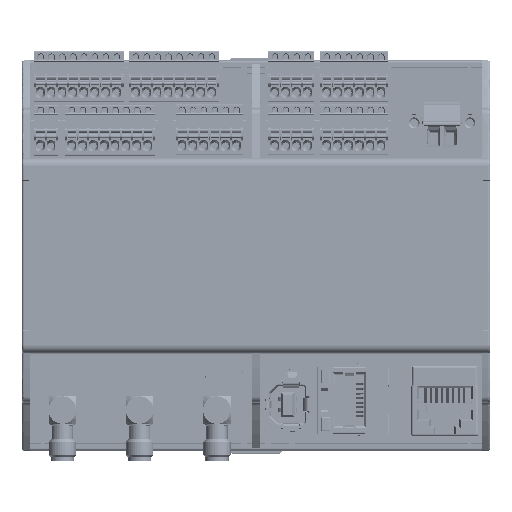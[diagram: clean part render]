
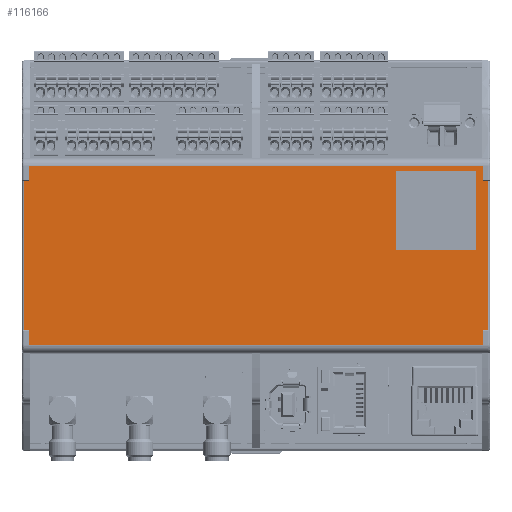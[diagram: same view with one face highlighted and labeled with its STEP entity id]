
A CAD part, top view. The second image highlights one B-rep face of the part: STEP entity #116166.
In plain terms, the highlighted planar face has unit normal (0, 0, 1) as drawn and (0, 1, 0) by its records, which use the part's own axes.
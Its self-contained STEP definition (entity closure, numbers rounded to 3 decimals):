
#24266 = EDGE_CURVE ( 'NONE', #101091, #101165, #315192, .T. ) ;
#24269 = EDGE_CURVE ( 'NONE', #104546, #101165, #314753, .T. ) ;
#24270 = EDGE_CURVE ( 'NONE', #104546, #101294, #314761, .T. ) ;
#24271 = EDGE_CURVE ( 'NONE', #101294, #101091, #315218, .T. ) ;
#24275 = EDGE_CURVE ( 'NONE', #103893, #98323, #315229, .T. ) ;
#24277 = EDGE_CURVE ( 'NONE', #103893, #99029, #315194, .T. ) ;
#24280 = EDGE_CURVE ( 'NONE', #98459, #99029, #315205, .T. ) ;
#24285 = EDGE_CURVE ( 'NONE', #103876, #98459, #315232, .T. ) ;
#24288 = EDGE_CURVE ( 'NONE', #99492, #103876, #315244, .T. ) ;
#24292 = EDGE_CURVE ( 'NONE', #99813, #99492, #315261, .T. ) ;
#24296 = EDGE_CURVE ( 'NONE', #104415, #99813, #315251, .T. ) ;
#24300 = EDGE_CURVE ( 'NONE', #99351, #104415, #315257, .T. ) ;
#24304 = EDGE_CURVE ( 'NONE', #100126, #99351, #315262, .T. ) ;
#24308 = EDGE_CURVE ( 'NONE', #100126, #104179, #315266, .T. ) ;
#24311 = EDGE_CURVE ( 'NONE', #100815, #104179, #315276, .T. ) ;
#24313 = EDGE_CURVE ( 'NONE', #98323, #100815, #315279, .T. ) ;
#30428 = AXIS2_PLACEMENT_3D ( 'NONE', #33987, #33990, #33993 ) ;
#33851 = FACE_OUTER_BOUND ( 'NONE', #178910, .T. ) ;
#33926 = FACE_BOUND ( 'NONE', #159583, .T. ) ;
#33936 = PLANE ( 'NONE',  #30428 ) ;
#33987 = CARTESIAN_POINT ( 'NONE',  ( -16.96, 54.7, 18.2 ) ) ;
#33990 = DIRECTION ( 'NONE',  ( 0., -1., 0. ) ) ;
#33993 = DIRECTION ( 'NONE',  ( 0., 0., -1. ) ) ;
#98323 = VERTEX_POINT ( 'NONE', #300991 ) ;
#98459 = VERTEX_POINT ( 'NONE', #301129 ) ;
#99029 = VERTEX_POINT ( 'NONE', #301702 ) ;
#99351 = VERTEX_POINT ( 'NONE', #302055 ) ;
#99492 = VERTEX_POINT ( 'NONE', #302227 ) ;
#99813 = VERTEX_POINT ( 'NONE', #302462 ) ;
#100126 = VERTEX_POINT ( 'NONE', #302722 ) ;
#100815 = VERTEX_POINT ( 'NONE', #303589 ) ;
#101091 = VERTEX_POINT ( 'NONE', #304140 ) ;
#101165 = VERTEX_POINT ( 'NONE', #304281 ) ;
#101294 = VERTEX_POINT ( 'NONE', #304521 ) ;
#103876 = VERTEX_POINT ( 'NONE', #308151 ) ;
#103893 = VERTEX_POINT ( 'NONE', #308171 ) ;
#104179 = VERTEX_POINT ( 'NONE', #308472 ) ;
#104415 = VERTEX_POINT ( 'NONE', #308716 ) ;
#104546 = VERTEX_POINT ( 'NONE', #308845 ) ;
#116166 = ADVANCED_FACE ( 'NONE', ( #33926, #33851 ), #33936, .F. ) ;
#159583 = EDGE_LOOP ( 'NONE', ( #301886, #301892, #301898, #301908 ) ) ;
#178910 = EDGE_LOOP ( 'NONE', ( #301917, #301927, #301932, #301940, #301947, #301955, #301964, #301972, #301980, #301987, #301994, #302003 ) ) ;
#300991 = CARTESIAN_POINT ( 'NONE',  ( 20.5, 54.7, 1.8 ) ) ;
#301129 = CARTESIAN_POINT ( 'NONE',  ( -17.2, 54.7, 0.7 ) ) ;
#301702 = CARTESIAN_POINT ( 'NONE',  ( 17.2, 54.7, 0.7 ) ) ;
#301886 = ORIENTED_EDGE ( 'NONE', *, *, #24266, .T. ) ;
#301892 = ORIENTED_EDGE ( 'NONE', *, *, #24269, .F. ) ;
#301898 = ORIENTED_EDGE ( 'NONE', *, *, #24270, .T. ) ;
#301908 = ORIENTED_EDGE ( 'NONE', *, *, #24271, .T. ) ;
#301917 = ORIENTED_EDGE ( 'NONE', *, *, #24275, .F. ) ;
#301927 = ORIENTED_EDGE ( 'NONE', *, *, #24277, .T. ) ;
#301932 = ORIENTED_EDGE ( 'NONE', *, *, #24280, .F. ) ;
#301940 = ORIENTED_EDGE ( 'NONE', *, *, #24285, .F. ) ;
#301947 = ORIENTED_EDGE ( 'NONE', *, *, #24288, .F. ) ;
#301955 = ORIENTED_EDGE ( 'NONE', *, *, #24292, .F. ) ;
#301964 = ORIENTED_EDGE ( 'NONE', *, *, #24296, .F. ) ;
#301972 = ORIENTED_EDGE ( 'NONE', *, *, #24300, .F. ) ;
#301980 = ORIENTED_EDGE ( 'NONE', *, *, #24304, .F. ) ;
#301987 = ORIENTED_EDGE ( 'NONE', *, *, #24308, .T. ) ;
#301994 = ORIENTED_EDGE ( 'NONE', *, *, #24311, .F. ) ;
#302003 = ORIENTED_EDGE ( 'NONE', *, *, #24313, .F. ) ;
#302055 = CARTESIAN_POINT ( 'NONE',  ( -17.2, 54.7, 107.3 ) ) ;
#302227 = CARTESIAN_POINT ( 'NONE',  ( -20.5, 54.7, 1.8 ) ) ;
#302462 = CARTESIAN_POINT ( 'NONE',  ( -20.5, 54.7, 106.2 ) ) ;
#302722 = CARTESIAN_POINT ( 'NONE',  ( 17.2, 54.7, 107.3 ) ) ;
#303589 = CARTESIAN_POINT ( 'NONE',  ( 20.5, 54.7, 106.2 ) ) ;
#304140 = CARTESIAN_POINT ( 'NONE',  ( 19.432, 54.7, 86.293 ) ) ;
#304281 = CARTESIAN_POINT ( 'NONE',  ( 19.432, 54.7, 104.581 ) ) ;
#304521 = CARTESIAN_POINT ( 'NONE',  ( 1.144, 54.7, 86.293 ) ) ;
#308151 = CARTESIAN_POINT ( 'NONE',  ( -17.2, 54.7, 1.8 ) ) ;
#308171 = CARTESIAN_POINT ( 'NONE',  ( 17.2, 54.7, 1.8 ) ) ;
#308472 = CARTESIAN_POINT ( 'NONE',  ( 17.2, 54.7, 106.2 ) ) ;
#308716 = CARTESIAN_POINT ( 'NONE',  ( -17.2, 54.7, 106.2 ) ) ;
#308845 = CARTESIAN_POINT ( 'NONE',  ( 1.144, 54.7, 104.581 ) ) ;
#309764 = VECTOR ( 'NONE', #315207, 1000. ) ;
#309995 = VECTOR ( 'NONE', #315199, 1000. ) ;
#310000 = VECTOR ( 'NONE', #315216, 1000. ) ;
#310005 = VECTOR ( 'NONE', #315246, 1000. ) ;
#310011 = VECTOR ( 'NONE', #315226, 1000. ) ;
#310017 = VECTOR ( 'NONE', #315237, 1000. ) ;
#310022 = VECTOR ( 'NONE', #315253, 1000. ) ;
#310025 = VECTOR ( 'NONE', #315258, 1000. ) ;
#310030 = VECTOR ( 'NONE', #315260, 1000. ) ;
#310033 = VECTOR ( 'NONE', #315267, 1000. ) ;
#310038 = VECTOR ( 'NONE', #315264, 1000. ) ;
#310044 = VECTOR ( 'NONE', #315270, 1000. ) ;
#310049 = VECTOR ( 'NONE', #315273, 1000. ) ;
#310053 = VECTOR ( 'NONE', #315275, 1000. ) ;
#310061 = VECTOR ( 'NONE', #315278, 1000. ) ;
#310066 = VECTOR ( 'NONE', #315282, 1000. ) ;
#314753 = LINE ( 'NONE', #315201, #309764 ) ;
#314761 = LINE ( 'NONE', #315209, #310000 ) ;
#315192 = LINE ( 'NONE', #315197, #309995 ) ;
#315194 = LINE ( 'NONE', #315240, #310005 ) ;
#315197 = CARTESIAN_POINT ( 'NONE',  ( 19.432, 54.7, 86.293 ) ) ;
#315199 = DIRECTION ( 'NONE',  ( 0., 0., 1. ) ) ;
#315201 = CARTESIAN_POINT ( 'NONE',  ( 1.144, 54.7, 104.581 ) ) ;
#315205 = LINE ( 'NONE', #315248, #310022 ) ;
#315207 = DIRECTION ( 'NONE',  ( 1., 0., 0. ) ) ;
#315209 = CARTESIAN_POINT ( 'NONE',  ( 1.144, 54.7, 104.581 ) ) ;
#315216 = DIRECTION ( 'NONE',  ( 0., 0., -1. ) ) ;
#315218 = LINE ( 'NONE', #315223, #310011 ) ;
#315223 = CARTESIAN_POINT ( 'NONE',  ( 1.144, 54.7, 86.293 ) ) ;
#315226 = DIRECTION ( 'NONE',  ( 1., 0., 0. ) ) ;
#315229 = LINE ( 'NONE', #315234, #310017 ) ;
#315232 = LINE ( 'NONE', #315255, #310025 ) ;
#315234 = CARTESIAN_POINT ( 'NONE',  ( -16.96, 54.7, 1.8 ) ) ;
#315237 = DIRECTION ( 'NONE',  ( 1., 0., 0. ) ) ;
#315240 = CARTESIAN_POINT ( 'NONE',  ( 17.2, 54.7, 0.2 ) ) ;
#315244 = LINE ( 'NONE', #315259, #310030 ) ;
#315246 = DIRECTION ( 'NONE',  ( 0., 0., -1. ) ) ;
#315248 = CARTESIAN_POINT ( 'NONE',  ( -16.96, 54.7, 0.7 ) ) ;
#315251 = LINE ( 'NONE', #315265, #310033 ) ;
#315253 = DIRECTION ( 'NONE',  ( 1., 0., 0. ) ) ;
#315255 = CARTESIAN_POINT ( 'NONE',  ( -17.2, 54.7, 0.2 ) ) ;
#315257 = LINE ( 'NONE', #315268, #310044 ) ;
#315258 = DIRECTION ( 'NONE',  ( 0., 0., -1. ) ) ;
#315259 = CARTESIAN_POINT ( 'NONE',  ( -16.96, 54.7, 1.8 ) ) ;
#315260 = DIRECTION ( 'NONE',  ( 1., 0., 0. ) ) ;
#315261 = LINE ( 'NONE', #315263, #310038 ) ;
#315262 = LINE ( 'NONE', #315271, #310049 ) ;
#315263 = CARTESIAN_POINT ( 'NONE',  ( -20.5, 54.7, 18.2 ) ) ;
#315264 = DIRECTION ( 'NONE',  ( 0., 0., -1. ) ) ;
#315265 = CARTESIAN_POINT ( 'NONE',  ( -16.96, 54.7, 106.2 ) ) ;
#315266 = LINE ( 'NONE', #315274, #310053 ) ;
#315267 = DIRECTION ( 'NONE',  ( -1., 0., 0. ) ) ;
#315268 = CARTESIAN_POINT ( 'NONE',  ( -17.2, 54.7, 72.2 ) ) ;
#315270 = DIRECTION ( 'NONE',  ( 0., 0., -1. ) ) ;
#315271 = CARTESIAN_POINT ( 'NONE',  ( -16.96, 54.7, 107.3 ) ) ;
#315273 = DIRECTION ( 'NONE',  ( -1., 0., 0. ) ) ;
#315274 = CARTESIAN_POINT ( 'NONE',  ( 17.2, 54.7, 107.8 ) ) ;
#315275 = DIRECTION ( 'NONE',  ( 0., 0., -1. ) ) ;
#315276 = LINE ( 'NONE', #315277, #310061 ) ;
#315277 = CARTESIAN_POINT ( 'NONE',  ( -16.96, 54.7, 106.2 ) ) ;
#315278 = DIRECTION ( 'NONE',  ( -1., 0., 0. ) ) ;
#315279 = LINE ( 'NONE', #315281, #310066 ) ;
#315281 = CARTESIAN_POINT ( 'NONE',  ( 20.5, 54.7, 18.2 ) ) ;
#315282 = DIRECTION ( 'NONE',  ( 0., 0., 1. ) ) ;
